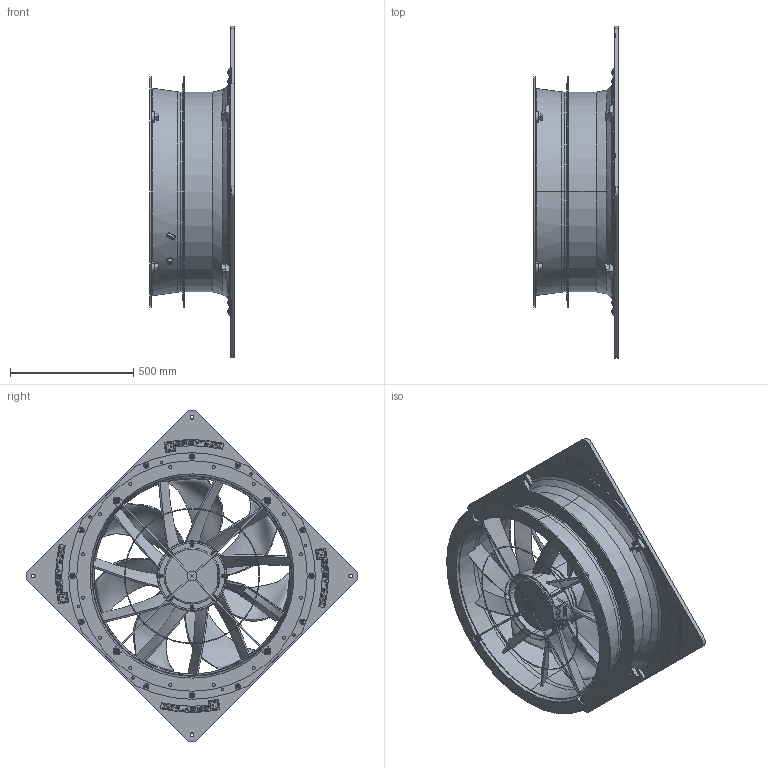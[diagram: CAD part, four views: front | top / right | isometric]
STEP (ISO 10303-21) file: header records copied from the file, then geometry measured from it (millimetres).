
FILE_DESCRIPTION((''),'2;1');
FILE_NAME('19080-QG06-02-05','2013-01-30T',('kraftc'),(''),'PRO/ENGINEER BY PARAMETRIC TECHNOLOGY CORPORATION, 2010140','PRO/ENGINEER BY PARAMETRIC TECHNOLOGY CORPORATION, 2010140','');
FILE_SCHEMA(('AUTOMOTIVE_DESIGN { 1 2 10303 214 0 1 1 1 }'));
Length unit declared in the file: millimetre
Products named in the file (1): 19080-QG06-02-05
Bounding box: 343 x 1346.71 x 1346.71 mm (x, y, z)
Volume: 25340800.3 mm3; surface area: 5395930.8 mm2
Topology: 3 solids, 4 shells, 3718 faces, 9543 edges, 5999 vertices
Faces by surface type: plane 1234, cylinder 1159, bspline 504, cone 254, torus 217, extrusion 192, sphere 158
Entity records: 191124 total; most frequent: CARTESIAN_POINT 83927, ORIENTED_EDGE 19086, DIRECTION 16448, EDGE_CURVE 9543, AXIS2_PLACEMENT_3D 6087, VERTEX_POINT 5999, VECTOR 4274, LINE 4082
